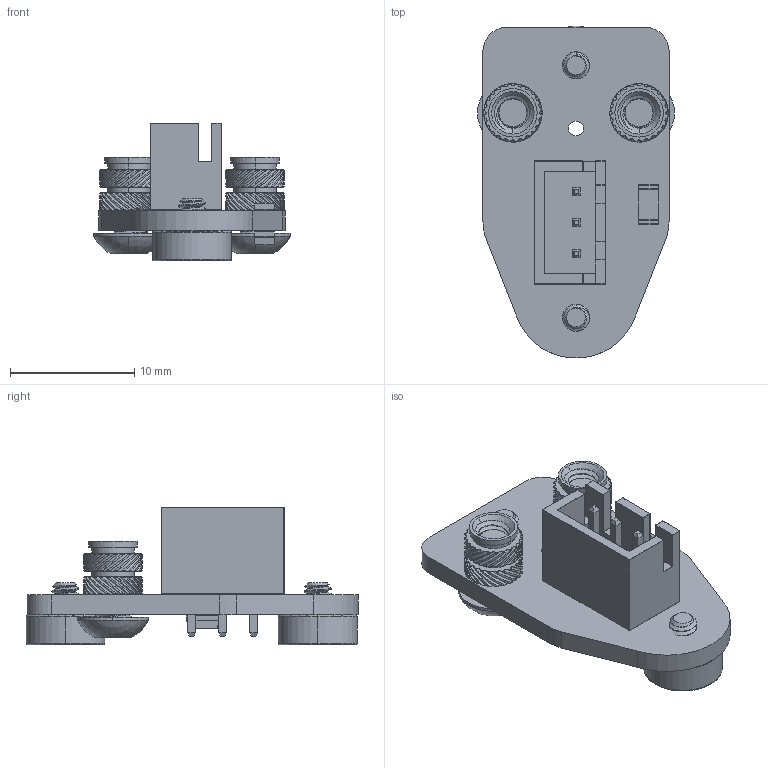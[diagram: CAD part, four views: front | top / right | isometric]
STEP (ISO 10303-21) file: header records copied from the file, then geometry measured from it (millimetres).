
FILE_DESCRIPTION(('KiCad electronic assembly'),'2;1');
FILE_NAME('025mag-PROBE-BOARD_REV2Top.step','2020-11-24T18:09:38',( 'An Author'),('A Company'),'Open CASCADE STEP processor 6.9', 'KiCad to STEP converter','Unknown');
FILE_SCHEMA(('AUTOMOTIVE_DESIGN { 1 0 10303 214 1 1 1 1 }'));
Length unit declared in the file: millimetre
Products named in the file (15): Open CASCADE STEP translator 6.9 1; JST-B3B-XH-A; COMPOUND; LED_1206_3216Metric; SOLID; 94459A130_BRASS_HEAT-SET_INSERT_FOR_PLASTIC; 97763A811_BLACK-OXIDE_18-8_SS_BUTTON-HEAD_CAP_SCREW; R_1206_3216Metric; mag.pretty
Assembly tree (17 placements, depth 3):
  Open CASCADE STEP translator 6.9 1
    JST-B3B-XH-A
      COMPOUND
    LED_1206_3216Metric
      SOLID
    94459A130_BRASS_HEAT-SET_INSERT_FOR_PLASTIC  x2
      SOLID
    97763A811_BLACK-OXIDE_18-8_SS_BUTTON-HEAD_CAP_SCREW  x2
      SOLID
    R_1206_3216Metric
      SOLID
    mag.pretty  x2
      SOLID
      SOLID
    COMPOUND
Bounding box: 15.86 x 26.74 x 11.08 mm (x, y, z)
Volume: 1088.5 mm3; surface area: 2417.2 mm2
Topology: 19 solids, 19 shells, 1075 faces, 2892 edges, 1866 vertices
Faces by surface type: cylinder 362, cone 254, plane 228, bspline 175, sphere 30, torus 26
Full cylindrical faces by diameter (mm): 0.5 x1, 1.2 x3, 1.6 x2, 3.2 x2
Entity records: 84834 total; most frequent: CARTESIAN_POINT 49810, DIRECTION 5267, ORIENTED_EDGE 3754, PCURVE 3754, DEFINITIONAL_REPRESENTATION 3754, LINE 2759, VECTOR 2759, EDGE_CURVE 1877
